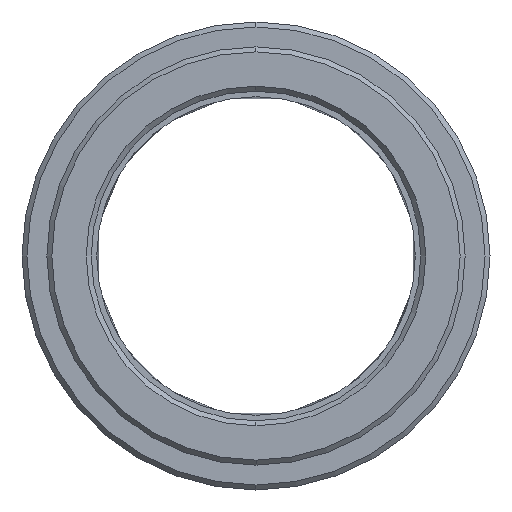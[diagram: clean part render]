
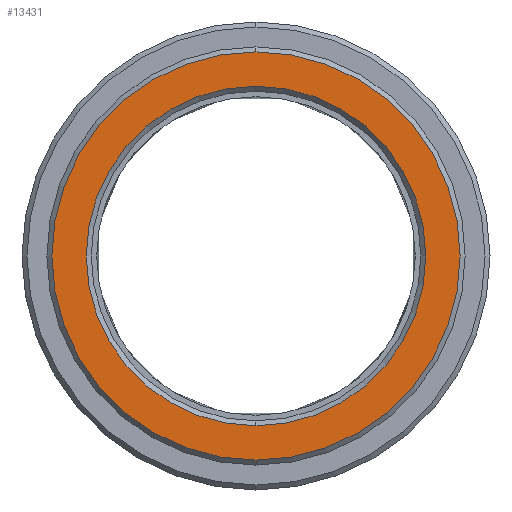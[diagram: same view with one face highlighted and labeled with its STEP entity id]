
A CAD part, left-side view. The second image highlights one B-rep face of the part: STEP entity #13431.
In plain terms, the highlighted planar face has unit normal (-1, 0, 0).
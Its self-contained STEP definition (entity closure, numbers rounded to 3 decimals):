
#9186=CARTESIAN_POINT('',(-8.,0.,
0.));
#9187=DIRECTION('',(1.,0.,0.));
#9188=DIRECTION('',(0.,0.,1.));
#9189=AXIS2_PLACEMENT_3D('',#9186,#9187,#9188);
#9191=CARTESIAN_POINT('',(-8.,0.,
0.));
#9192=DIRECTION('',(1.,0.,0.));
#9193=DIRECTION('',(0.,0.,-1.));
#9194=AXIS2_PLACEMENT_3D('',#9191,#9192,#9193);
#9196=CARTESIAN_POINT('',(-8.,0.,0.));
#9197=DIRECTION('',(1.,0.,0.));
#9198=DIRECTION('',(0.,0.,1.));
#9199=AXIS2_PLACEMENT_3D('',#9196,#9197,#9198);
#9201=CARTESIAN_POINT('',(-8.,0.,0.));
#9202=DIRECTION('',(1.,0.,0.));
#9203=DIRECTION('',(0.,0.,-1.));
#9204=AXIS2_PLACEMENT_3D('',#9201,#9202,#9203);
#9770=CARTESIAN_POINT('',(-8.,0.,20.5));
#9771=CARTESIAN_POINT('',(-8.,0.,
-20.5));
#9772=VERTEX_POINT('',#9770);
#9773=VERTEX_POINT('',#9771);
#9774=CARTESIAN_POINT('',(-8.,0.,17.05));
#9775=CARTESIAN_POINT('',(-8.,0.,-17.05));
#9776=VERTEX_POINT('',#9774);
#9777=VERTEX_POINT('',#9775);
#13416=CARTESIAN_POINT('',(-8.,0.,0.));
#13417=DIRECTION('',(1.,0.,0.));
#13418=DIRECTION('',(0.,0.,1.));
#13419=AXIS2_PLACEMENT_3D('',#13416,#13417,#13418);
#13420=PLANE('',#13419);
#13421=ORIENTED_EDGE('',*,*,#13383,.T.);
#13422=ORIENTED_EDGE('',*,*,#13398,.T.);
#13423=EDGE_LOOP('',(#13421,#13422));
#13424=FACE_OUTER_BOUND('',#13423,.F.);
#13426=ORIENTED_EDGE('',*,*,#13425,.F.);
#13428=ORIENTED_EDGE('',*,*,#13427,.F.);
#13429=EDGE_LOOP('',(#13426,#13428));
#13430=FACE_BOUND('',#13429,.F.);
#13431=ADVANCED_FACE('',(#13424,#13430),#13420,.F.);
#9190=CIRCLE('',#9189,20.5);
#9195=CIRCLE('',#9194,20.5);
#9200=CIRCLE('',#9199,17.05);
#9205=CIRCLE('',#9204,17.05);
#13383=EDGE_CURVE('',#9772,#9773,#9190,.T.);
#13398=EDGE_CURVE('',#9773,#9772,#9195,.T.);
#13425=EDGE_CURVE('',#9776,#9777,#9200,.T.);
#13427=EDGE_CURVE('',#9777,#9776,#9205,.T.);
